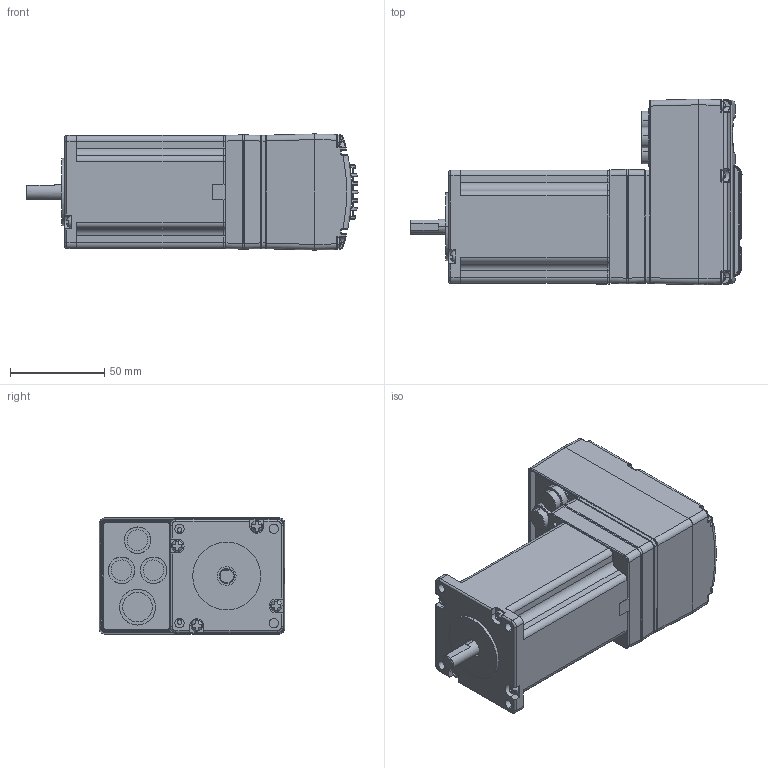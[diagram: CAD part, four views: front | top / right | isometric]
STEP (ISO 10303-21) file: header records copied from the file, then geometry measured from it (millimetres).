
FILE_DESCRIPTION (( 'STEP AP203' ), '1' );
FILE_NAME ('P16-MO-060-04-R00.STEP', '2015-04-30T03:41:20', ( '' ), ( '' ), 'SwSTEP 2.0', 'SolidWorks 2013', '' );
FILE_SCHEMA (( 'CONFIG_CONTROL_DESIGN' ));
Length unit declared in the file: millimetre
Products named in the file (14): M16-EC-060-11-R00; M16-EC-060-06-R00; M16-EC-060-12-R00; M16-MO-060-04-R00(EzM-60L-ALL-02); M16-EC-060-05-R00; ALL60 鐘喀攪-1; M16-EC-060-08-R00; ALL60 鐘喀攪-2; M16-EC-060-07-R00; P16-MO-060-04-R00; M16-EC-060-09-R00; M16-EC-060-10-R00; round cross head screw_ks_KS 1023 RC - M3 x 10-N; M15-EC-042-05-R00
Assembly tree (20 placements, depth 2):
  P16-MO-060-04-R00
    M16-EC-060-11-R00
    M16-EC-060-12-R00
    M16-EC-060-05-R00
    M16-EC-060-08-R00
    M16-EC-060-07-R00
    M16-EC-060-09-R00
    M16-EC-060-10-R00
    round cross head screw_ks_KS 1023 RC - M3 x 10-N  x6
    M15-EC-042-05-R00
    M16-EC-060-06-R00
    M16-MO-060-04-R00(EzM-60L-ALL-02)
    ALL60 鐘喀攪-1  x3
    ALL60 鐘喀攪-2
Bounding box: 176.1 x 98.4 x 61.6 mm (x, y, z)
Volume: 407628.2 mm3; surface area: 112831.5 mm2
Topology: 20 solids, 20 shells, 2507 faces, 6154 edges, 3728 vertices
Faces by surface type: cylinder 814, bspline 802, plane 613, cone 225, torus 37, sphere 16
Entity records: 110385 total; most frequent: CARTESIAN_POINT 60122, ORIENTED_EDGE 11256, DIRECTION 8427, EDGE_CURVE 5628, VERTEX_POINT 3439, AXIS2_PLACEMENT_3D 3246, EDGE_LOOP 2495, ADVANCED_FACE 2315
